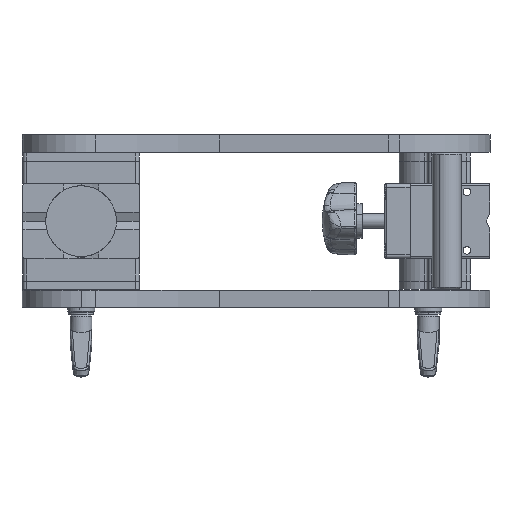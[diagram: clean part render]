
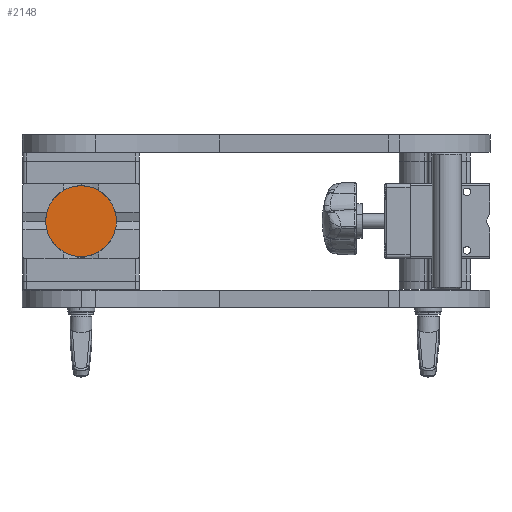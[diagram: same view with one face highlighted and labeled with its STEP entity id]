
A CAD part, left-side view. The second image highlights one B-rep face of the part: STEP entity #2148.
In plain terms, the highlighted planar face has unit normal (-1, 0, 0).
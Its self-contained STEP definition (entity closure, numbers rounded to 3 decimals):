
#2148 = ADVANCED_FACE ( 'NONE', ( #31550 ), #45975, .F. ) ;
#7070 = VERTEX_POINT ( 'NONE', #45225 ) ;
#7071 = VERTEX_POINT ( 'NONE', #45227 ) ;
#27135 = EDGE_LOOP ( 'NONE', ( #54509, #54508 ) ) ;
#31550 = FACE_OUTER_BOUND ( 'NONE', #27135, .T. ) ;
#35535 = EDGE_CURVE ( 'NONE', #7070, #7071, #62143, .T. ) ;
#35559 = EDGE_CURVE ( 'NONE', #7071, #7070, #62167, .T. ) ;
#45225 = CARTESIAN_POINT ( 'NONE',  ( 3., 205.102, -47.43 ) ) ;
#45227 = CARTESIAN_POINT ( 'NONE',  ( 3., 244.902, -47.43 ) ) ;
#45975 = PLANE ( 'NONE',  #79917 ) ;
#45995 = CARTESIAN_POINT ( 'NONE',  ( 3., 225.002, -47.43 ) ) ;
#46009 = DIRECTION ( 'NONE',  ( 1., 0., 0. ) ) ;
#46011 = DIRECTION ( 'NONE',  ( 0., 1., 0. ) ) ;
#54508 = ORIENTED_EDGE ( 'NONE', *, *, #35559, .T. ) ;
#54509 = ORIENTED_EDGE ( 'NONE', *, *, #35535, .T. ) ;
#55586 = AXIS2_PLACEMENT_3D ( 'NONE', #63503, #63504, #63505 ) ;
#55632 = AXIS2_PLACEMENT_3D ( 'NONE', #63572, #63579, #63580 ) ;
#62143 = CIRCLE ( 'NONE', #55586, 19.9 ) ;
#62167 = CIRCLE ( 'NONE', #55632, 19.9 ) ;
#63503 = CARTESIAN_POINT ( 'NONE',  ( 3., 225.002, -47.43 ) ) ;
#63504 = DIRECTION ( 'NONE',  ( -1., 0., 0. ) ) ;
#63505 = DIRECTION ( 'NONE',  ( 0., -1., 0. ) ) ;
#63572 = CARTESIAN_POINT ( 'NONE',  ( 3., 225.002, -47.43 ) ) ;
#63579 = DIRECTION ( 'NONE',  ( -1., 0., 0. ) ) ;
#63580 = DIRECTION ( 'NONE',  ( 0., -1., 0. ) ) ;
#79917 = AXIS2_PLACEMENT_3D ( 'NONE', #45995, #46009, #46011 ) ;
